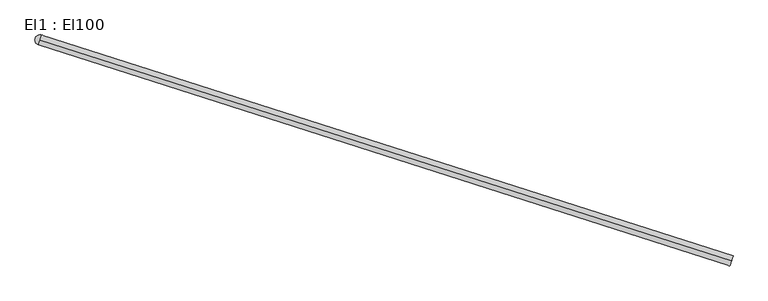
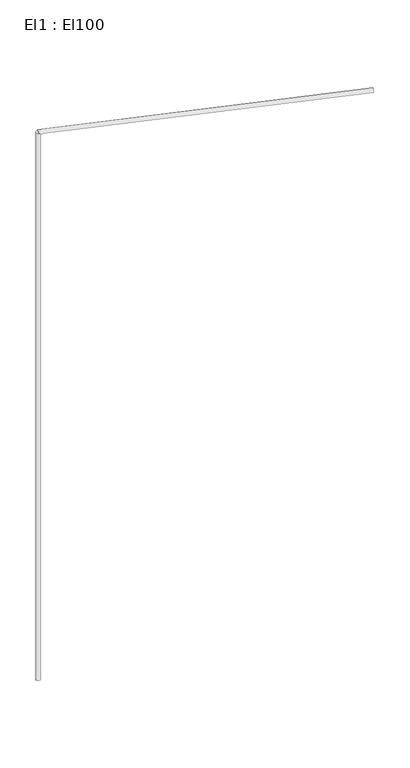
"""IFC4 building model written with IfcOpenShell, lengths in millimetres: cable carrier segment geometry, El1 : El100."""

from ifc_helpers import new_model, si_unit, point, frame, frame_2d, origin, place, context, project, spatial, circle_curve, trimmed, segment, composite_curve, outline, extrude, source, transform, mapped, element, save


def el1_el100_e79a3072(model_context):
    return source(origin(), model_context, "Body", "SweptSolid", [
        extrude(outline(composite_curve([segment(trimmed(circle_curve(frame_2d((0.0, -9.5)), 9.5), [point((0.0, -19.0))], [point((0.0, 0.0))], False, "CARTESIAN"), True, "CONTINUOUS"), segment(trimmed(circle_curve(frame_2d((0.0, -9.5)), 9.5), [point((0.0, 0.0))], [point((0.0, -19.0))], False, "CARTESIAN"), True, "CONTINUOUS")], self_intersect=False)), frame((26424.6534738, 9054.0236507, 4459.5), z_axis=(-0.9524506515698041, 0.3046928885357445, 0.0), x_axis=(-0.3046928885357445, -0.9524506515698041, 0.0)), (0.0, 0.0, 1.0), 1344.06),
        extrude(outline(composite_curve([segment(trimmed(circle_curve(frame_2d((25144.5026511, 9463.5491745)), 9.5), [point((25135.0026511, 9463.5491745))], [point((25154.0026511, 9463.5491745))], False, "CARTESIAN"), True, "CONTINUOUS"), segment(trimmed(circle_curve(frame_2d((25144.5026511, 9463.5491745)), 9.5), [point((25154.0026511, 9463.5491745))], [point((25135.0026511, 9463.5491745))], False, "CARTESIAN"), True, "CONTINUOUS")], self_intersect=False)), frame((0.0, 0.0, 1830.0), z_axis=(0.0, 0.0, 1.0), x_axis=(1.0, 0.0, 0.0)), (0.0, 0.0, 1.0), 2620.0),
    ])


if __name__ == "__main__":
    model = new_model("IFC4")
    model_context = context("Model", 3, world=origin())
    ifc_project = project(units=[si_unit("LENGTHUNIT", "METRE", prefix="MILLI")], contexts=[model_context])
    site = spatial("IfcSite", under=ifc_project)
    building = spatial("IfcBuilding", under=site)
    placement = place(None, origin())
    el1_el100_shape = el1_el100_e79a3072(model_context)
    element("IfcCableCarrierSegment", 1, ObjectType="El1 : El100", at=placement, inside=building, context=model_context, shape_type="MappedRepresentation", body=[
        mapped(el1_el100_shape, transform((0.0, 0.0, 0.0), x_axis=(1.0, 0.0, 0.0), y_axis=(0.0, 1.0, 0.0), z_axis=(0.0, 0.0, 1.0))),
    ])
    save(model, "model.ifc")
